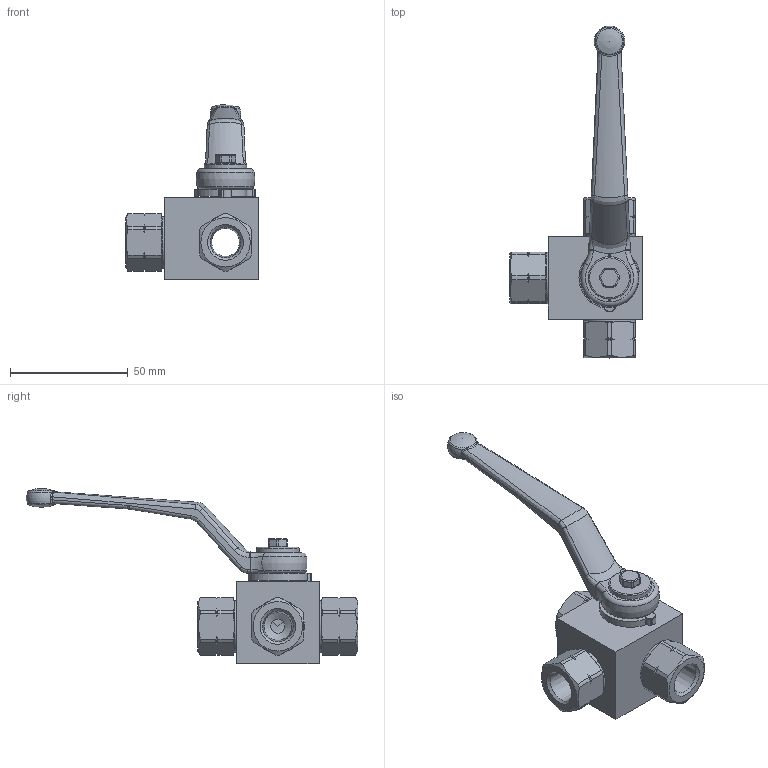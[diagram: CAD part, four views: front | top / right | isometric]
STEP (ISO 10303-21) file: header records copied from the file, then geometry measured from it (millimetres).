
FILE_DESCRIPTION( ( 'Unknown' ), '1' );
FILE_NAME( 'H:/PISTER/3D-MODELLE/BK3-Edelstahl stp/BK3-Edelst DN6 1_4 NPT.stp', 'Unknown', ( 'Unknown' ), ( 'Unknown' ), 'PSStep 14.0', 'Unknown', ' ' );
FILE_SCHEMA( ( 'AUTOMOTIVE_DESIGN { 1 0 10303 214 1 1 1 1 }' ) );
Length unit declared in the file: millimetre
Products named in the file (11): Assem1; 56-032-337-oa5; 09-09-003; 58-28740-16-oa6; 58-0440-009; 06-008-007-oa8; 04-006-028-oa9; 04-006-028-oa10; 04-006-028-oa11; Griff_SW9; 01-008-020-oa12
Assembly tree (10 placements, depth 2):
  Assem1
    56-032-337-oa5
    09-09-003
    58-28740-16-oa6
    58-0440-009
    06-008-007-oa8
    04-006-028-oa9
    04-006-028-oa10
    04-006-028-oa11
    Griff_SW9
    01-008-020-oa12
Bounding box: 56.5 x 141 x 74.4 mm (x, y, z)
Volume: 60911.9 mm3; surface area: 27405.2 mm2
Topology: 10 solids, 10 shells, 408 faces, 1043 edges, 658 vertices
Faces by surface type: cylinder 138, plane 117, cone 79, bspline 36, torus 34, sphere 4
Full cylindrical faces by diameter (mm): 4.134 x1, 4.98 x1, 5 x1, 5.8 x1, 6 x1, 7 x1, 11.862 x3, 14 x2, 17.1 x1, 18 x1, 18.376 x1, 18.5 x1, 20 x1, 20.3 x1, 21 x4, 22 x3, 22.5 x3
Entity records: 17216 total; most frequent: CARTESIAN_POINT 4613, ORIENTED_EDGE 1898, DIRECTION 1867, EDGE_CURVE 949, AXIS2_PLACEMENT_3D 768, VERTEX_POINT 627, EDGE_LOOP 492, FACE_OUTER_BOUND 445
